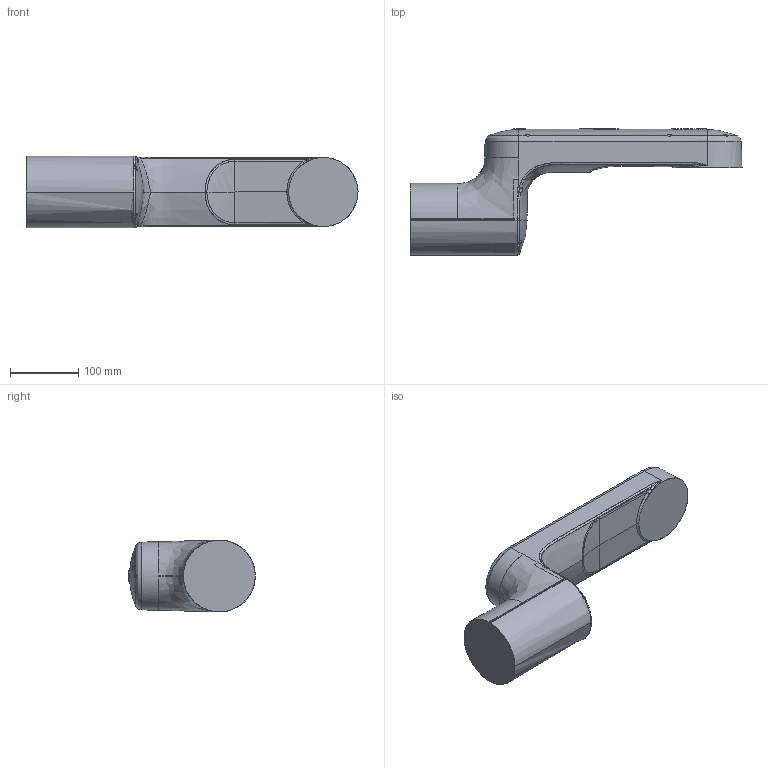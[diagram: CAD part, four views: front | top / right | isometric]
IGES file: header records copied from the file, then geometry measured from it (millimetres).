
Start section: SolidWorks IGES file using analytic representation for surfaces
Global section: file name: C:\data\sap_doc\500000125163\M12\CRB15000_12kg-127_Omnicore_rev00_LINK04_CAD.igs; native system: SolidWorks 2022; preprocessor: SolidWorks 2022; author: CNTAFEN; date: 230705.154219; units: millimetre
Bounding box: 487.78 x 185.8 x 105.64 mm (x, y, z)
Surface area: 180034.6 mm2 (no closed solid volume)
Topology: 0 solids, 0 shells, 511 faces, 7531 edges, 7528 vertices
Faces by surface type: bspline 406, revolution 105
